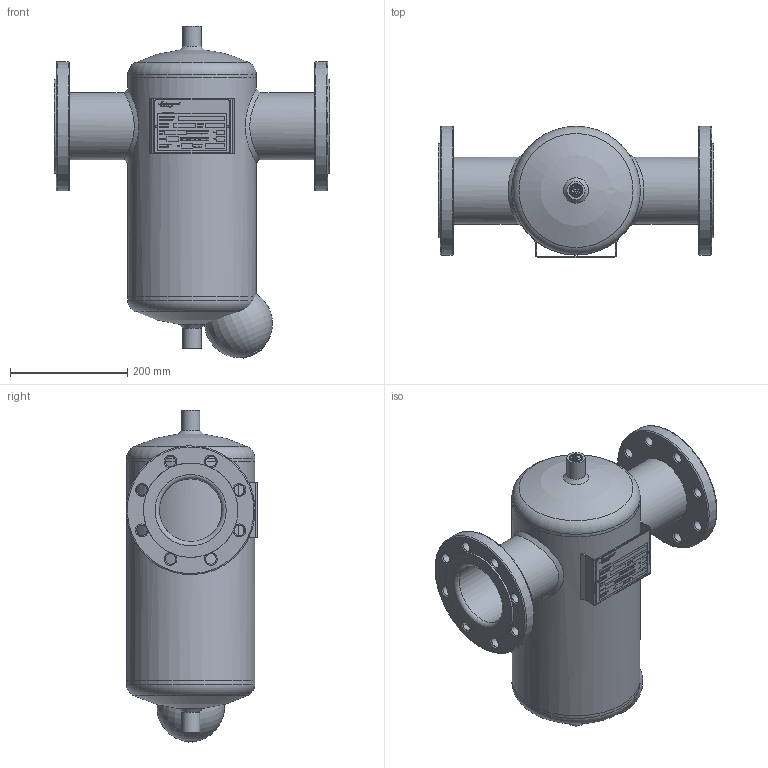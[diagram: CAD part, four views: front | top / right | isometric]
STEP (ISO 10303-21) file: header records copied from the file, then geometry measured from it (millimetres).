
FILE_DESCRIPTION(/* description */ ('Unknown'),/* implementation_level */ '2;1');
FILE_NAME(/* name */ 'DFL100',/* time_stamp */ '2020-01-28T15:05:14+01:00',/* author */ ('Unknown'),/* organization */ ('Unknown'),/* preprocessor_version */ 'ST-DEVELOPER v16.7',/* originating_system */ 'DEX',/* authorisation */ $);
FILE_SCHEMA (('AUTOMOTIVE_DESIGN {1 0 10303 214 3 1 1}'));
Length unit declared in the file: millimetre
Products named in the file (1): DFL100
Bounding box: 470 x 224.4 x 566.46 mm (x, y, z)
Volume: 17540028.3 mm3; surface area: 933991.2 mm2
Topology: 2 solids, 3 shells, 3114 faces, 7781 edges, 5156 vertices
Faces by surface type: plane 2156, bspline 803, cylinder 81, torus 51, cone 19, sphere 4
Full cylindrical faces by diameter (mm): 3.8 x2, 4.917 x1, 9.231 x1, 18 x16, 19 x1, 31.17 x4, 34.1 x1, 37 x1, 40 x1, 40.2 x1, 48 x1, 49 x1, 52 x1, 62 x1, 65 x1, 107.1 x2, 114.3 x2, 115 x2, 161 x2, 219.1 x3, 220 x2
Entity records: 159692 total; most frequent: CARTESIAN_POINT 73268, ORIENTED_EDGE 15092, DIRECTION 9022, EDGE_CURVE 7546, VERTEX_POINT 5107, LINE 3844, VECTOR 3844, FACE_BOUND 3817
